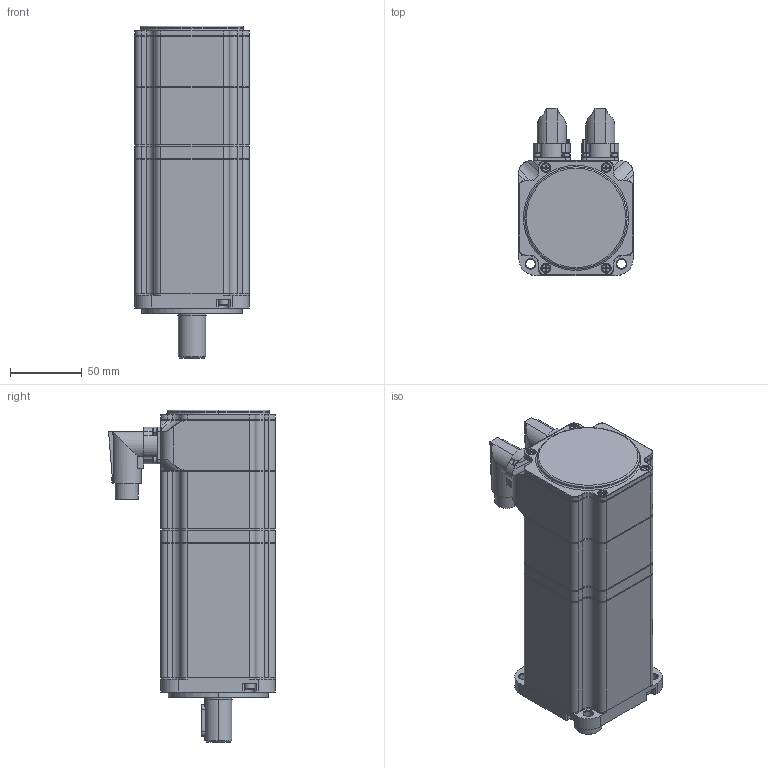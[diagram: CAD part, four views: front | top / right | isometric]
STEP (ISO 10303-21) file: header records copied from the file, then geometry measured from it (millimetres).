
FILE_DESCRIPTION (( 'STEP AP203' ), '1' );
FILE_NAME ('SMH80-753026EBC-40.STEP', '2014-06-04T08:01:16', ( '微软用户' ), ( '微软中国' ), 'SwSTEP 2.0', 'SolidWorks 2011', '' );
FILE_SCHEMA (( 'CONFIG_CONTROL_DESIGN' ));
Length unit declared in the file: millimetre
Products named in the file (30): SMH80-753026EBC-40; M17萇埭; M17陓瘍; spring lock washers--normal type gb_GB_FASTENER_WASHER_SW 2.5; hexagon socket head cap screws gb_GB_FASTENER_SCREWS_HSHCS M2.5X6-N; 嘎殤蚐猾; 价陬裔啣; 价陬欶; circlips for holes--type a gb_GB_CONNECTING_PIECE_RING_RRH 42; 轴承垫圈; 瑩; cross recessed countersunk head screws gb2_GB_CROSS_SCREWS_TYPE10 M3X8-6.35-H1-N; hexagon socket head cap screws gb_GB_FASTENER_SCREWS_HSHCS M4X35-N; 鎢攫欶綴裔; 躇猾菜; 鎢攫欶; 蛌赽軞傖_Default; hexagon socket head cap screws gb_GB_FASTENER_SCREWS_HSHCS M3X10-N; 粣創揤啣; 綴傷裔; deep groove ball bearings gb_Rolling bearings 6004 GB 276-94; deep groove ball bearings gb_Rolling bearings 6002 GB 276-94; circlips for shaft--type a large gb_GB_CONNECTING_PIECE_RING_RRA 15; 蛌赽郪璃_Default; 蛌粣; 隅赽軞傖_Default; hexagon socket head cap screws gb_GB_FASTENER_SCREWS_HSHCS M4X16-N; ヶ傷裔И璃; 儂褲; ヶ傷裔
Assembly tree (65 placements, depth 4):
  SMH80-753026EBC-40
    hexagon socket head cap screws gb_GB_FASTENER_SCREWS_HSHCS M2.5X6-N  x8
    spring lock washers--normal type gb_GB_FASTENER_WASHER_SW 2.5  x8
    M17萇埭
    M17陓瘍
    蛌赽軞傖_Default
      hexagon socket head cap screws gb_GB_FASTENER_SCREWS_HSHCS M3X10-N  x3
      粣創揤啣
      綴傷裔
      deep groove ball bearings gb_Rolling bearings 6004 GB 276-94
      deep groove ball bearings gb_Rolling bearings 6002 GB 276-94
      circlips for shaft--type a large gb_GB_CONNECTING_PIECE_RING_RRA 15
      蛌赽郪璃_Default
        蛌粣
    hexagon socket head cap screws gb_GB_FASTENER_SCREWS_HSHCS M4X16-N  x4
    嘎殤蚐猾
    hexagon socket head cap screws gb_GB_FASTENER_SCREWS_HSHCS M4X35-N  x8
    价陬裔啣
    价陬欶
    躇猾菜  x4
    circlips for holes--type a gb_GB_CONNECTING_PIECE_RING_RRH 42
    轴承垫圈
    瑩
    cross recessed countersunk head screws gb2_GB_CROSS_SCREWS_TYPE10 M3X8-6.35-H1-N  x4
    鎢攫欶綴裔
    鎢攫欶
    隅赽軞傖_Default
      hexagon socket head cap screws gb_GB_FASTENER_SCREWS_HSHCS M4X16-N  x4
      ヶ傷裔И璃
      儂褲
      ヶ傷裔
Bounding box: 80 x 116.6 x 232 mm (x, y, z)
Volume: 462250.8 mm3; surface area: 253136.8 mm2
Topology: 62 solids, 62 shells, 2776 faces, 7512 edges, 4806 vertices
Faces by surface type: cylinder 1107, plane 1061, cone 247, torus 209, sphere 86, bspline 66
Entity records: 71238 total; most frequent: CARTESIAN_POINT 17420, DIRECTION 10744, ORIENTED_EDGE 10360, EDGE_CURVE 5180, AXIS2_PLACEMENT_3D 4301, VERTEX_POINT 3391, CIRCLE 2372, EDGE_LOOP 2239
